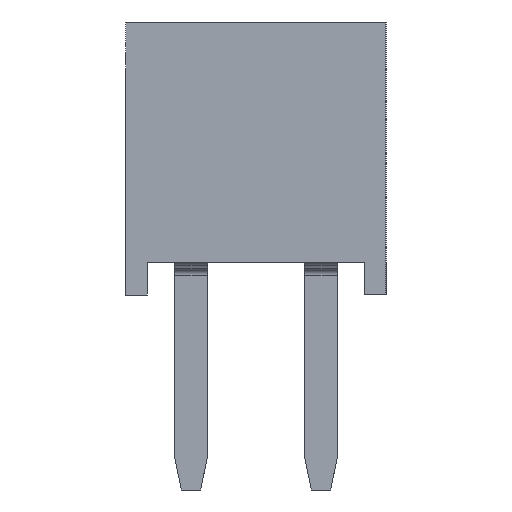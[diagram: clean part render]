
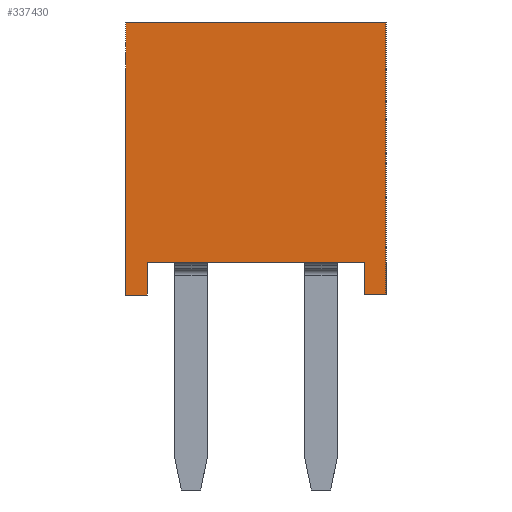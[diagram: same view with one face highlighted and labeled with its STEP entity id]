
A CAD part, left-side view. The second image highlights one B-rep face of the part: STEP entity #337430.
In plain terms, the highlighted planar face has unit normal (-1, 0, 0).
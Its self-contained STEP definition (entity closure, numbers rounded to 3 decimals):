
#27080=CARTESIAN_POINT('',(-25.,1.675,0.5));
#27090=VERTEX_POINT('',#27080);
#27120=CARTESIAN_POINT('',(-25.,-2.5,0.5));
#27130=DIRECTION('',(0.,1.,0.));
#27140=VECTOR('',#27130,1.);
#27150=LINE('',#27120,#27140);
#27160=CARTESIAN_POINT('',(-25.,-1.675,0.5));
#27170=VERTEX_POINT('',#27160);
#27180=EDGE_CURVE('',#27170,#27090,#27150,.T.);
#334660=CARTESIAN_POINT('',(-25.,-2.,0.));
#334670=VERTEX_POINT('',#334660);
#334700=CARTESIAN_POINT('',(-25.,-2.,0.1));
#334710=DIRECTION('',(0.,0.,-1.));
#334720=VECTOR('',#334710,1.);
#334730=LINE('',#334700,#334720);
#334740=CARTESIAN_POINT('',(-25.,-2.,4.2));
#334750=VERTEX_POINT('',#334740);
#334760=EDGE_CURVE('',#334750,#334670,#334730,.T.);
#336900=CARTESIAN_POINT('',(-25.,2.1,-0.105));
#336910=DIRECTION('',(-1.,0.,0.));
#336920=DIRECTION('',(0.,-1.,0.));
#336930=AXIS2_PLACEMENT_3D('',#336900,#336910,#336920);
#336940=PLANE('',#336930);
#336950=CARTESIAN_POINT('',(-25.,-2.5,4.2));
#336960=DIRECTION('',(0.,-1.,0.));
#336970=VECTOR('',#336960,1.);
#336980=LINE('',#336950,#336970);
#336990=CARTESIAN_POINT('',(-25.,2.,4.2));
#337000=VERTEX_POINT('',#336990);
#337010=EDGE_CURVE('',#337000,#334750,#336980,.T.);
#337020=ORIENTED_EDGE('',*,*,#337010,.F.);
#337030=ORIENTED_EDGE('',*,*,#334760,.F.);
#337040=CARTESIAN_POINT('',(-25.,-2.5,0.));
#337050=DIRECTION('',(0.,1.,-0.));
#337060=VECTOR('',#337050,1.);
#337070=LINE('',#337040,#337060);
#337080=CARTESIAN_POINT('',(-25.,-1.675,0.));
#337090=VERTEX_POINT('',#337080);
#337100=EDGE_CURVE('',#334670,#337090,#337070,.T.);
#337110=ORIENTED_EDGE('',*,*,#337100,.F.);
#337120=CARTESIAN_POINT('',(-25.,-1.675,0.1));
#337130=DIRECTION('',(0.,0.,1.));
#337140=VECTOR('',#337130,1.);
#337150=LINE('',#337120,#337140);
#337160=EDGE_CURVE('',#337090,#27170,#337150,.T.);
#337170=ORIENTED_EDGE('',*,*,#337160,.F.);
#337180=ORIENTED_EDGE('',*,*,#27180,.F.);
#337190=CARTESIAN_POINT('',(-25.,1.675,0.1));
#337200=DIRECTION('',(0.,-0.,-1.));
#337210=VECTOR('',#337200,1.);
#337220=LINE('',#337190,#337210);
#337230=CARTESIAN_POINT('',(-25.,1.675,0.));
#337240=VERTEX_POINT('',#337230);
#337250=EDGE_CURVE('',#27090,#337240,#337220,.T.);
#337260=ORIENTED_EDGE('',*,*,#337250,.F.);
#337270=CARTESIAN_POINT('',(-25.,-2.5,0.));
#337280=DIRECTION('',(0.,1.,-0.));
#337290=VECTOR('',#337280,1.);
#337300=LINE('',#337270,#337290);
#337310=CARTESIAN_POINT('',(-25.,2.,0.));
#337320=VERTEX_POINT('',#337310);
#337330=EDGE_CURVE('',#337240,#337320,#337300,.T.);
#337340=ORIENTED_EDGE('',*,*,#337330,.F.);
#337350=CARTESIAN_POINT('',(-25.,2.,0.1));
#337360=DIRECTION('',(0.,0.,1.));
#337370=VECTOR('',#337360,1.);
#337380=LINE('',#337350,#337370);
#337390=EDGE_CURVE('',#337320,#337000,#337380,.T.);
#337400=ORIENTED_EDGE('',*,*,#337390,.F.);
#337410=EDGE_LOOP('',(#337400,#337340,#337260,#337180,#337170,#337110,
#337030,#337020));
#337420=FACE_OUTER_BOUND('',#337410,.T.);
#337430=ADVANCED_FACE('',(#337420),#336940,.T.);
